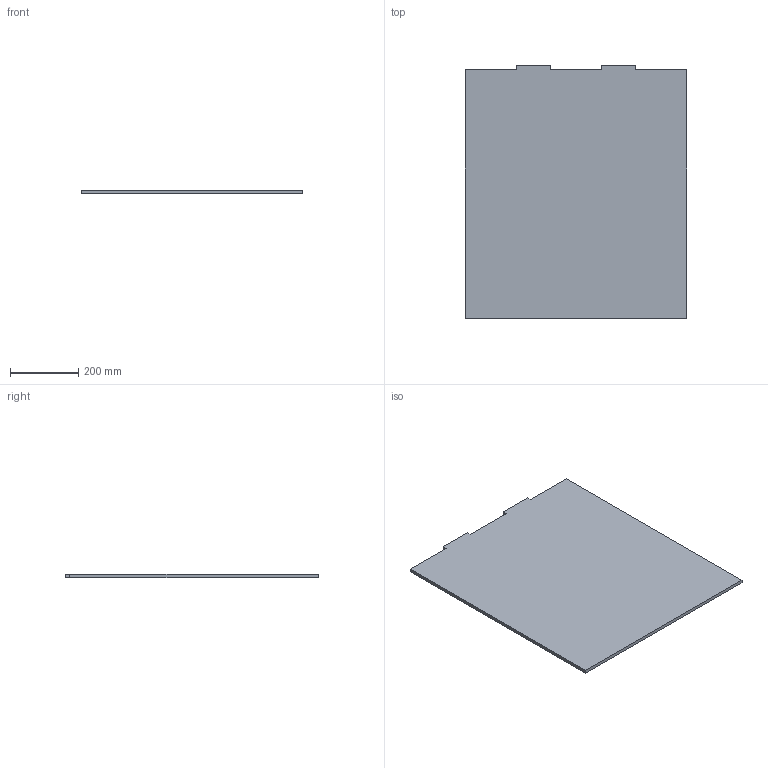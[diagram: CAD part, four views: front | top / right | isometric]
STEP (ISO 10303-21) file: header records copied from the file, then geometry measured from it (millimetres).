
FILE_DESCRIPTION (( 'STEP AP214' ), '1' );
FILE_NAME ('left side.STEP', '2024-10-17T16:04:35', ( '' ), ( '' ), 'SwSTEP 2.0', 'SolidWorks 2020', '' );
FILE_SCHEMA (( 'AUTOMOTIVE_DESIGN' ));
Length unit declared in the file: millimetre
Products named in the file (1): left side
Bounding box: 650 x 742 x 10 mm (x, y, z)
Volume: 4769000 mm3; surface area: 981880 mm2
Topology: 1 solids, 1 shells, 14 faces, 36 edges, 24 vertices
Faces by surface type: plane 14
Entity records: 454 total; most frequent: CARTESIAN_POINT 75, ORIENTED_EDGE 72, DIRECTION 66, VECTOR 36, LINE 36, EDGE_CURVE 36, VERTEX_POINT 24, AXIS2_PLACEMENT_3D 15
